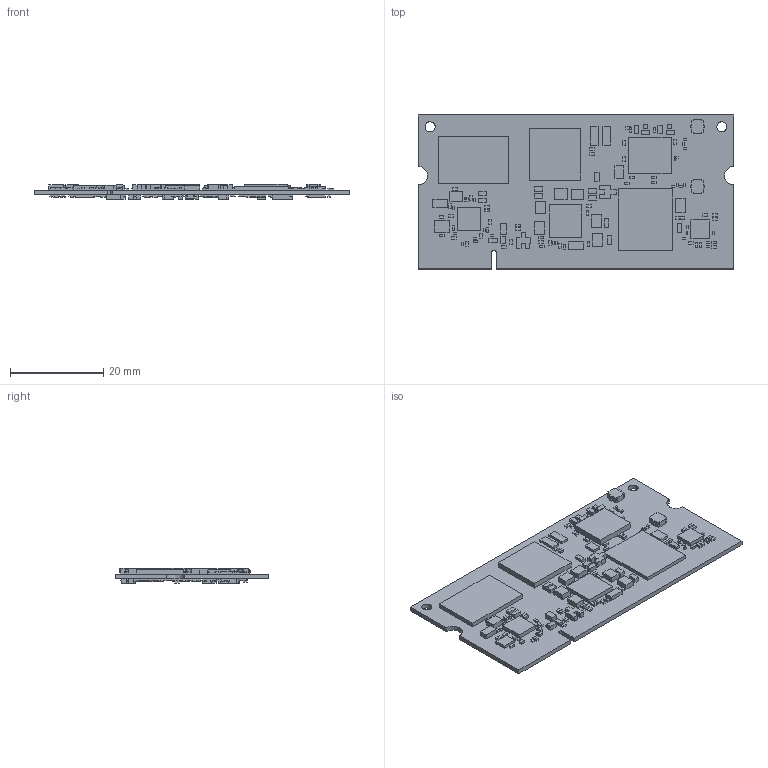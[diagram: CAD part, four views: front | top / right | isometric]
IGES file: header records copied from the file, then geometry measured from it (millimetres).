
Global section: file name: VAR-SOM-MX91 v0; native system: unknown; preprocessor: unknown; author: unknown; organization: unknown; date: 20250406.120037; units: millimetre
Bounding box: 67.6 x 32.99 x 3.41 mm (x, y, z)
Volume: 3110.9 mm3; surface area: 7410.7 mm2
Topology: 303 solids, 303 shells, 1916 faces, 3921 edges, 2614 vertices
Faces by surface type: bspline 1916
